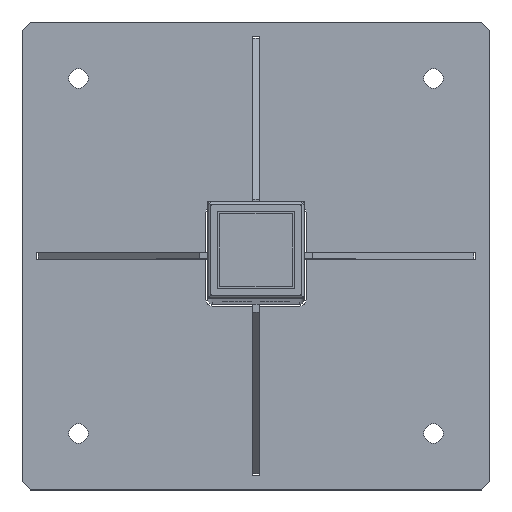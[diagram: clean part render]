
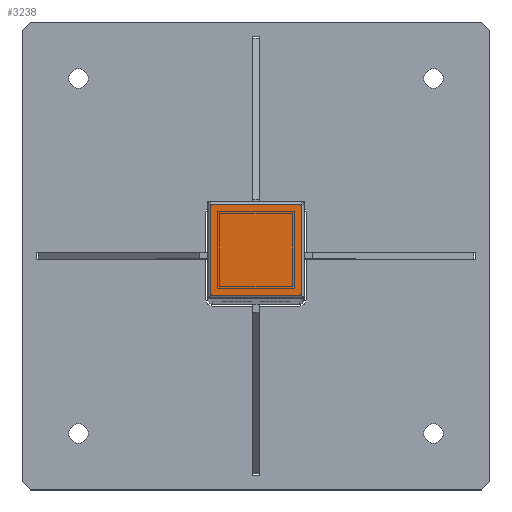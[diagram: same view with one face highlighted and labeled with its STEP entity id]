
A CAD part, top view. The second image highlights one B-rep face of the part: STEP entity #3238.
In plain terms, the highlighted planar face has unit normal (0, 0, 1).
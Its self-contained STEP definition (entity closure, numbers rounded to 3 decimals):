
#964=ORIENTED_EDGE('',*,*,#1406,.F.);
#965=ORIENTED_EDGE('',*,*,#1401,.F.);
#966=ORIENTED_EDGE('',*,*,#1408,.F.);
#967=ORIENTED_EDGE('',*,*,#1410,.F.);
#1401=EDGE_CURVE('',#1708,#1710,#2056,.T.);
#1406=EDGE_CURVE('',#1710,#1712,#2059,.T.);
#1408=EDGE_CURVE('',#1714,#1708,#2060,.T.);
#1410=EDGE_CURVE('',#1712,#1714,#2062,.T.);
#1708=VERTEX_POINT('',#5255);
#1710=VERTEX_POINT('',#5258);
#1712=VERTEX_POINT('',#5264);
#1714=VERTEX_POINT('',#5270);
#2056=LINE('',#5257,#2408);
#2059=LINE('',#5267,#2411);
#2060=LINE('',#5272,#2412);
#2062=LINE('',#5275,#2414);
#2408=VECTOR('',#4358,1000.);
#2411=VECTOR('',#4367,1000.);
#2412=VECTOR('',#4372,1000.);
#2414=VECTOR('',#4376,1000.);
#2679=EDGE_LOOP('',(#964,#965,#966,#967));
#2941=FACE_BOUND('',#2679,.T.);
#3070=PLANE('',#3550);
#3238=ADVANCED_FACE('',(#2941),#3070,.F.);
#3550=AXIS2_PLACEMENT_3D('',#5277,#4378,#4379);
#4358=DIRECTION('',(0.,-1.,0.));
#4367=DIRECTION('',(-1.,0.,0.));
#4372=DIRECTION('',(1.,0.,0.));
#4376=DIRECTION('',(0.,1.,0.));
#4378=DIRECTION('',(0.,0.,-1.));
#4379=DIRECTION('',(-1.,0.,0.));
#5255=CARTESIAN_POINT('',(28.,28.,2130.));
#5257=CARTESIAN_POINT('',(28.,30.,2130.));
#5258=CARTESIAN_POINT('',(28.,-28.,2130.));
#5264=CARTESIAN_POINT('',(-28.,-28.,2130.));
#5267=CARTESIAN_POINT('',(30.,-28.,2130.));
#5270=CARTESIAN_POINT('',(-28.,28.,2130.));
#5272=CARTESIAN_POINT('',(-30.,28.,2130.));
#5275=CARTESIAN_POINT('',(-28.,-30.,2130.));
#5277=CARTESIAN_POINT('',(0.,0.,2130.));
